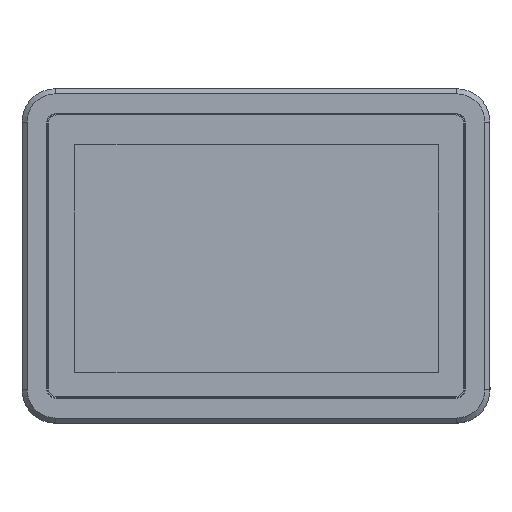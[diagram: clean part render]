
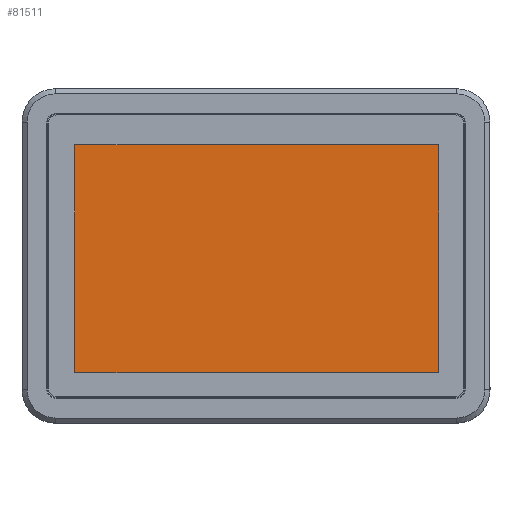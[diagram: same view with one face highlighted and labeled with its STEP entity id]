
A CAD part, top view. The second image highlights one B-rep face of the part: STEP entity #81511.
In plain terms, the highlighted planar face has unit normal (0, 0, 1).
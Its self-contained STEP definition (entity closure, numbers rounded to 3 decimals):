
#2532=PLANE('',#85926);
#5415=FACE_OUTER_BOUND('',#9577,.T.);
#9577=EDGE_LOOP('',(#57066,#57067,#57068,#57069));
#14469=LINE('',#128950,#23032);
#14470=LINE('',#128952,#23033);
#14471=LINE('',#128954,#23034);
#14472=LINE('',#128955,#23035);
#23032=VECTOR('',#94427,1000.);
#23033=VECTOR('',#94428,1000.);
#23034=VECTOR('',#94429,1000.);
#23035=VECTOR('',#94430,1000.);
#34319=VERTEX_POINT('',#128948);
#34320=VERTEX_POINT('',#128949);
#34321=VERTEX_POINT('',#128951);
#34322=VERTEX_POINT('',#128953);
#43185=EDGE_CURVE('',#34319,#34320,#14469,.T.);
#43186=EDGE_CURVE('',#34320,#34321,#14470,.T.);
#43187=EDGE_CURVE('',#34321,#34322,#14471,.T.);
#43188=EDGE_CURVE('',#34322,#34319,#14472,.T.);
#57066=ORIENTED_EDGE('',*,*,#43185,.T.);
#57067=ORIENTED_EDGE('',*,*,#43186,.T.);
#57068=ORIENTED_EDGE('',*,*,#43187,.T.);
#57069=ORIENTED_EDGE('',*,*,#43188,.T.);
#81511=ADVANCED_FACE('',(#5415),#2532,.F.);
#85926=AXIS2_PLACEMENT_3D('',#128947,#94425,#94426);
#94425=DIRECTION('center_axis',(0.,0.,-1.));
#94426=DIRECTION('ref_axis',(1.,0.,0.));
#94427=DIRECTION('',(0.,1.,0.));
#94428=DIRECTION('',(-1.,0.,0.));
#94429=DIRECTION('',(0.,-1.,0.));
#94430=DIRECTION('',(1.,0.,0.));
#128947=CARTESIAN_POINT('Origin',(124.38,84.365,14.9));
#128948=CARTESIAN_POINT('',(109.35,-69.865,14.9));
#128949=CARTESIAN_POINT('',(109.35,66.535,14.9));
#128950=CARTESIAN_POINT('',(109.35,66.535,14.9));
#128951=CARTESIAN_POINT('',(-108.35,66.535,14.9));
#128952=CARTESIAN_POINT('',(-108.35,66.535,14.9));
#128953=CARTESIAN_POINT('',(-108.35,-69.865,14.9));
#128954=CARTESIAN_POINT('',(-108.35,-69.865,14.9));
#128955=CARTESIAN_POINT('',(109.35,-69.865,14.9));
